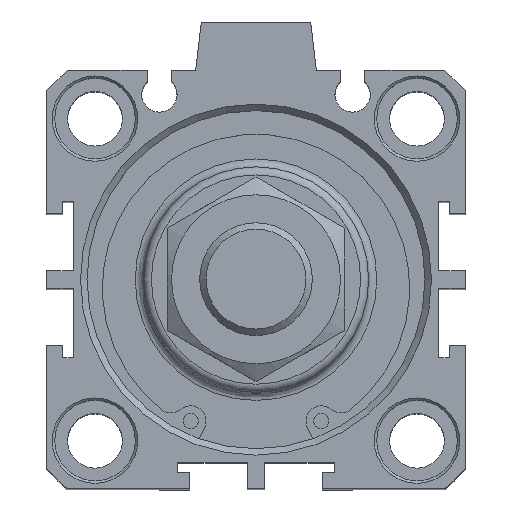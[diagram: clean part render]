
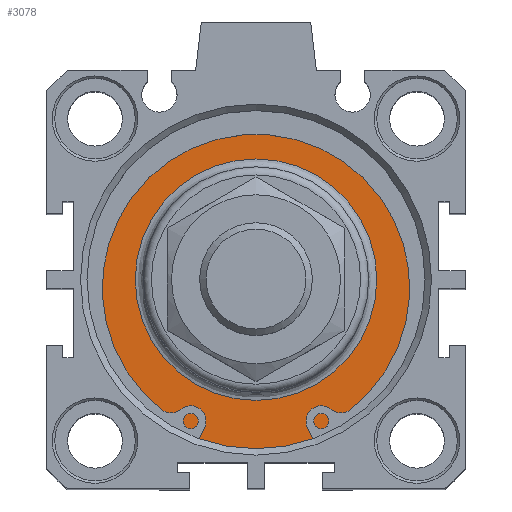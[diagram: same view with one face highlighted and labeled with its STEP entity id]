
A CAD part, top view. The second image highlights one B-rep face of the part: STEP entity #3078.
In plain terms, the highlighted planar face has unit normal (0, 0, 1).
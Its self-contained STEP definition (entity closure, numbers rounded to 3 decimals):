
#3027=CARTESIAN_POINT('',(-1.555,16.077,72.4));
#3028=VERTEX_POINT('',#3027);
#3029=CARTESIAN_POINT('',(-1.555,1.077,72.4));
#3030=DIRECTION('',(0.0,0.0,1.0));
#3031=DIRECTION('',(0.0,-1.0,0.0));
#3032=AXIS2_PLACEMENT_3D('',#3029,#3030,#3031);
#3033=CIRCLE('',#3032,15.0);
#3034=EDGE_CURVE('',#3028,#3028,#3033,.T.);
#3059=CARTESIAN_POINT('',(-1.555,18.577,72.4));
#3060=DIRECTION('',(0.0,0.0,1.0));
#3061=DIRECTION('',(1.0,0.0,0.0));
#3062=AXIS2_PLACEMENT_3D('',#3059,#3060,#3061);
#3063=PLANE('',#3062);
#3064=CARTESIAN_POINT('',(-1.555,22.077,72.4));
#3065=VERTEX_POINT('',#3064);
#3066=CARTESIAN_POINT('',(-1.555,1.077,72.4));
#3067=DIRECTION('',(0.0,0.0,-1.0));
#3068=DIRECTION('',(0.0,1.0,0.0));
#3069=AXIS2_PLACEMENT_3D('',#3066,#3067,#3068);
#3070=CIRCLE('',#3069,21.);
#3071=EDGE_CURVE('',#3065,#3065,#3070,.T.);
#3072=ORIENTED_EDGE('',*,*,#3071,.F.);
#3073=EDGE_LOOP('',(#3072));
#3074=FACE_OUTER_BOUND('',#3073,.T.);
#3075=ORIENTED_EDGE('',*,*,#3034,.F.);
#3076=EDGE_LOOP('',(#3075));
#3077=FACE_BOUND('',#3076,.T.);
#3078=ADVANCED_FACE('',(#3074,#3077),#3063,.T.);
